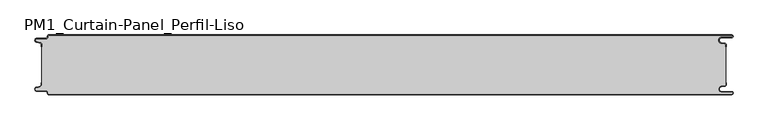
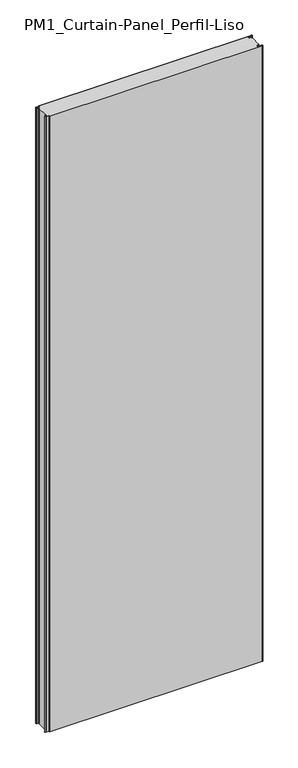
"""IFC4 building model written with IfcOpenShell, lengths in millimetres: plate geometry, PM1_Curtain-Panel_Perfil-Liso : ACH_PM1_Panel-Acústico-Sectorización_100M."""

import ifcopenshell
import ifcopenshell.guid

model = None  # the IFC model being written
_history = None  # IfcOwnerHistory: only IFC2X3 demands one
_inside = {}  # id of a spatial element -> (the spatial element, [elements in it])
_under = {}  # id of a project, library or spatial element -> (it, [spatial elements below it])
_declared = {}  # id of a project -> (the project, [libraries it declares])
_typed = {}  # id of a type object -> (the type object, [elements of that type])
_made_of = {}  # id of a material, layer set ... -> (it, [elements and type objects made of it])


def new_model(schema):
    """Start an empty IFC model of exactly this schema.

    Asked for "IFC4X3", IfcOpenShell would pick the latest addendum, in which some entities
    have other attributes; the version numbers below select the first issue.
    IFC2X3 requires an IfcOwnerHistory on every rooted entity: one is made here for all.
    """
    global model, _history
    if schema == "IFC4X3":
        model = ifcopenshell.file(schema_version=(4, 3, 0, 0))
    else:
        model = ifcopenshell.file(schema=schema)
    _inside.clear()
    _under.clear()
    _declared.clear()
    _typed.clear()
    _made_of.clear()
    _history = None
    if model.schema == "IFC2X3":
        org = make("IfcOrganization", Name="unknown")
        user = make(
            "IfcPersonAndOrganization",
            ThePerson=make("IfcPerson", FamilyName="unknown"),
            TheOrganization=org,
        )
        app = make(
            "IfcApplication",
            ApplicationDeveloper=org,
            Version="unknown",
            ApplicationFullName="unknown",
            ApplicationIdentifier="unknown",
        )
        _history = make(
            "IfcOwnerHistory",
            OwningUser=user,
            OwningApplication=app,
            ChangeAction="ADDED",
            CreationDate=0,
        )
    return model


def make(cls, **values):
    """One entity of the class cls with the attributes given. An attribute that is None is left unset."""
    return model.create_entity(
        cls, **{name: value for name, value in values.items() if value is not None}
    )


def rooted(cls, **values):
    """An entity with a GlobalId (a new one), such as an element, a storey or a relation."""
    return make(cls, GlobalId=ifcopenshell.guid.new(), OwnerHistory=_history, **values)


def si_unit(unit_type, name, prefix=None):
    """IfcSIUnit, for example si_unit("LENGTHUNIT", "METRE", prefix="MILLI")."""
    return make("IfcSIUnit", UnitType=unit_type, Prefix=prefix, Name=name)


def assignment(units):
    """IfcUnitAssignment: the units of a project."""
    return None if units is None else make("IfcUnitAssignment", Units=units)


def point(xyz):
    """IfcCartesianPoint."""
    return None if xyz is None else make("IfcCartesianPoint", Coordinates=xyz)


def direction(xyz):
    """IfcDirection."""
    return None if xyz is None else make("IfcDirection", DirectionRatios=xyz)


def frame(location, z_axis=None, x_axis=None):
    """IfcAxis2Placement3D, a coordinate frame: its origin and axes. An axis left out is left unset."""
    return make(
        "IfcAxis2Placement3D",
        Location=point(location),
        Axis=direction(z_axis),
        RefDirection=direction(x_axis),
    )


def frame_2d(location, x_axis=None):
    """IfcAxis2Placement2D, a coordinate frame in the plane: its origin and x axis."""
    return make(
        "IfcAxis2Placement2D", Location=point(location), RefDirection=direction(x_axis)
    )


def origin():
    """The frame at (0, 0, 0) with its axes left unset."""
    return frame((0.0, 0.0, 0.0))


def origin_with_axes():
    """The frame at (0, 0, 0) with the z axis (0, 0, 1) and the x axis (1, 0, 0) written out."""
    return frame((0.0, 0.0, 0.0), z_axis=(0.0, 0.0, 1.0), x_axis=(1.0, 0.0, 0.0))


def place(relative_to, where):
    """IfcLocalPlacement: puts the frame where relative to a parent placement (None: the world)."""
    return make(
        "IfcLocalPlacement", PlacementRelTo=relative_to, RelativePlacement=where
    )


def context(
    kind, dimensions, precision=None, world=None, true_north=None, identifier=None
):
    """IfcGeometricRepresentationContext, for example the 3D "Model" context."""
    return make(
        "IfcGeometricRepresentationContext",
        ContextIdentifier=identifier,
        ContextType=kind,
        CoordinateSpaceDimension=dimensions,
        Precision=precision,
        WorldCoordinateSystem=world,
        TrueNorth=true_north,
    )


def project(units=None, contexts=None):
    """IfcProject with its units and contexts."""
    return rooted(
        "IfcProject",
        Name="project",
        RepresentationContexts=contexts,
        UnitsInContext=assignment(units),
    )


def spatial(cls, under=None, at=None, **own):
    """A site, building, storey or space (cls), placed at a placement, below another one or the project."""
    s = rooted(cls, ObjectPlacement=at, **own)
    if under is not None:
        _under.setdefault(under.id(), (under, []))[1].append(s)
    return s


def polyline(points):
    """IfcPolyline through the points."""
    return make("IfcPolyline", Points=[point(p) for p in points])


def circle_curve(where, radius):
    """IfcCircle in the frame where."""
    return make("IfcCircle", Position=where, Radius=radius)


def trimmed(basis, trim1, trim2, sense, master):
    """IfcTrimmedCurve: the piece of a basis curve between two trims."""
    return make(
        "IfcTrimmedCurve",
        BasisCurve=basis,
        Trim1=trim1,
        Trim2=trim2,
        SenseAgreement=sense,
        MasterRepresentation=master,
    )


def segment(curve, same_sense, transition):
    """IfcCompositeCurveSegment."""
    return make(
        "IfcCompositeCurveSegment",
        Transition=transition,
        SameSense=same_sense,
        ParentCurve=curve,
    )


def composite_curve(segments, self_intersect=None):
    """IfcCompositeCurve: segments joined end to end."""
    return make("IfcCompositeCurve", Segments=segments, SelfIntersect=self_intersect)


def outline(outer, holes=None, kind="AREA"):
    """IfcArbitraryClosedProfileDef: a profile drawn as a closed curve; with holes, ...WithVoids."""
    if holes is None:
        return make("IfcArbitraryClosedProfileDef", ProfileType=kind, OuterCurve=outer)
    return make(
        "IfcArbitraryProfileDefWithVoids",
        ProfileType=kind,
        OuterCurve=outer,
        InnerCurves=holes,
    )


def extrude(swept, where, along, depth):
    """IfcExtrudedAreaSolid: the profile swept, set in the frame where, extruded along a direction by depth."""
    return make(
        "IfcExtrudedAreaSolid",
        SweptArea=swept,
        Position=where,
        ExtrudedDirection=direction(along),
        Depth=depth,
    )


def shape(context_of_items, identifier, shape_type, items):
    """IfcShapeRepresentation: the items that make up one representation, for example the "Body"."""
    return make(
        "IfcShapeRepresentation",
        ContextOfItems=context_of_items,
        RepresentationIdentifier=identifier,
        RepresentationType=shape_type,
        Items=items,
    )


def source(mapping_origin, context_of_items, identifier, shape_type, items):
    """IfcRepresentationMap: a shape defined once, which mapped items show again and again."""
    return make(
        "IfcRepresentationMap",
        MappingOrigin=mapping_origin,
        MappedRepresentation=shape(context_of_items, identifier, shape_type, items),
    )


def transform(
    local_origin,
    x_axis=None,
    y_axis=None,
    z_axis=None,
    scale=None,
    scale2=None,
    scale3=None,
    uniform=True,
):
    """IfcCartesianTransformationOperator3D, or its non-uniform kind. x_axis, y_axis, z_axis: its Axis1, 2, 3."""
    if uniform:
        return make(
            "IfcCartesianTransformationOperator3D",
            Axis1=direction(x_axis),
            Axis2=direction(y_axis),
            LocalOrigin=point(local_origin),
            Scale=scale,
            Axis3=direction(z_axis),
        )
    return make(
        "IfcCartesianTransformationOperator3DnonUniform",
        Axis1=direction(x_axis),
        Axis2=direction(y_axis),
        LocalOrigin=point(local_origin),
        Scale=scale,
        Axis3=direction(z_axis),
        Scale2=scale2,
        Scale3=scale3,
    )


def mapped(mapping_source, mapping_target):
    """IfcMappedItem: shows the shape of a source again, moved by a transform."""
    return make(
        "IfcMappedItem", MappingSource=mapping_source, MappingTarget=mapping_target
    )


def made_of(thing, what):
    """Note that an element or type object is made of a material, layer set ...; save() writes the relation."""
    if what is not None:
        _made_of.setdefault(what.id(), (what, []))[1].append(thing)
    return thing


def element(
    cls,
    number,
    at=None,
    inside=None,
    cuts=None,
    type_object=None,
    material=None,
    context=None,
    identifier="Body",
    shape_type=None,
    held_by="IfcProductDefinitionShape",
    body=None,
    shapes=None,
    **own,
):
    """One element of the class cls, such as IfcWall. Its Tag is "e" and its number.

    at: its placement. inside: the storey or other place that contains it. cuts: it is an
    opening in that element (IfcRelVoidsElement). A single representation is given by context,
    identifier, shape_type and body (its items); several are given by shapes. held_by: the class
    of the entity that holds the representations. save() writes the other relations.
    """
    e = rooted(cls, Tag="e%d" % number, ObjectPlacement=at, **own)
    if body is not None:
        shapes = [shape(context, identifier, shape_type, body)]
    if shapes is not None:
        e.Representation = make(held_by, Representations=shapes)
    if inside is not None:
        _inside.setdefault(inside.id(), (inside, []))[1].append(e)
    if cuts is not None:
        rooted(
            "IfcRelVoidsElement", RelatingBuildingElement=cuts, RelatedOpeningElement=e
        )
    if type_object is not None:
        _typed.setdefault(type_object.id(), (type_object, []))[1].append(e)
    return made_of(e, material)


def aggregate(whole, parts):
    """IfcRelAggregates: a whole, such as a stair, and the parts it consists of."""
    return rooted("IfcRelAggregates", RelatingObject=whole, RelatedObjects=parts)


def save(model, path):
    """Write the relations noted so far, then the file.

    IfcRelAggregates (storeys below a building ...), IfcRelContainedInSpatialStructure (elements
    in a storey), IfcRelDefinesByType, IfcRelAssociatesMaterial and IfcRelDeclares: one each for
    every whole, place, type object, material and project.
    """
    for whole, parts in _under.values():
        aggregate(whole, parts)
    for where, things in _inside.values():
        rooted(
            "IfcRelContainedInSpatialStructure",
            RelatedElements=things,
            RelatingStructure=where,
        )
    for kind, things in _typed.values():
        rooted("IfcRelDefinesByType", RelatedObjects=things, RelatingType=kind)
    for what, things in _made_of.values():
        rooted("IfcRelAssociatesMaterial", RelatedObjects=things, RelatingMaterial=what)
    for by, libraries in _declared.values():
        rooted("IfcRelDeclares", RelatingContext=by, RelatedDefinitions=libraries)
    model.write(path)


def plane_surface(at):
    """IfcPlane: the flat surface through the origin of the frame at, square to its z axis."""
    return make("IfcPlane", Position=at)


def cylinder_surface(at, radius):
    """IfcCylindricalSurface: all points at the distance radius from the z axis of the frame at."""
    return make("IfcCylindricalSurface", Position=at, Radius=radius)


def revolved_surface(curve, axis_point, axis_direction):
    """IfcSurfaceOfRevolution: the curve turned about the line through axis_point along axis_direction."""
    return make(
        "IfcSurfaceOfRevolution",
        SweptCurve=make("IfcArbitraryOpenProfileDef", ProfileType="CURVE", Curve=curve),
        AxisPosition=make("IfcAxis1Placement", Location=point(axis_point), Axis=direction(axis_direction)),
    )


def advanced_brep(points, edges, surfaces, faces):
    """IfcAdvancedBrep: a solid bounded by faces that lie on surfaces and meet in shared edges.

    An edge is (start, end): straight between two places in points (the first is 0);
    or (start, end, curve); or (start, end, curve, False) where it runs against its curve.
    A face is (place in surfaces, loops), or (place, loops, False) where it looks against
    its surface's normal. A loop lists edges by number (the first is 1), with a minus sign
    where the edge is run from its end to its start. The first loop is the outer one.
    """
    corners = [point(p) for p in points]
    vertices = [make("IfcVertexPoint", VertexGeometry=c) for c in corners]
    made = []
    for start, end, *more in edges:
        made.append(
            make(
                "IfcEdgeCurve",
                EdgeStart=vertices[start],
                EdgeEnd=vertices[end],
                EdgeGeometry=more[0] if more else make("IfcPolyline", Points=[corners[start], corners[end]]),
                SameSense=more[1] if len(more) > 1 else True,
            )
        )
    hull = []
    for where, loops, *sense in faces:
        bounds = []
        for j, loop in enumerate(loops):
            ring = [make("IfcOrientedEdge", EdgeElement=made[abs(k) - 1], Orientation=k > 0) for k in loop]
            bounds.append(
                make(
                    "IfcFaceOuterBound" if j == 0 else "IfcFaceBound",
                    Bound=make("IfcEdgeLoop", EdgeList=ring),
                    Orientation=True,
                )
            )
        hull.append(make("IfcAdvancedFace", Bounds=bounds, FaceSurface=surfaces[where], SameSense=sense[0] if sense else True))
    return make("IfcAdvancedBrep", Outer=make("IfcClosedShell", CfsFaces=hull))


def pm1_curtain_panel_perfil_liso_9f0cf21e(model_context):
    return source(origin(), model_context, "Body", "SolidModel", [
        advanced_brep(
        [(583.1, 0.0, 3500.0), (-562.4, 0.0, 3500.0), (-564.4, -2.0, 3500.0), (-564.4, -3.4, 3500.0), (-566.4, -5.4, 3500.0), (-581.9, -5.4, 3500.0), (-582.7098239, -12.5077322, 3500.0), (-576.5500979, -13.929817, 3500.0), (-575.0, -15.878557, 3500.0), (-575.0, -20.0, 3500.0), (-574.2, -20.0, 3500.0), (-574.2, -15.878557, 3500.0), (-576.370137, -13.1503208, 3500.0), (-582.529863, -11.728236, 3500.0), (-581.9, -6.2, 3500.0), (-566.4, -6.2, 3500.0), (-563.6, -3.4, 3500.0), (-563.6, -2.0, 3500.0), (-562.4, -0.8, 3500.0), (583.1, -0.8, 3500.0), (583.1, -4.2, 3500.0), (566.1, -4.2, 3500.0), (565.266489, -13.7270773, 3500.0), (571.7125666, -14.8636942, 3500.0), (573.2, -16.636348, 3500.0), (573.2, -20.0, 3500.0), (574.0, -20.0, 3500.0), (574.0, -16.636348, 3500.0), (571.8514851, -14.0758478, 3500.0), (565.4054075, -12.9392309, 3500.0), (566.1, -5.0, 3500.0), (583.1, -5.0, 3500.0), (585.6, -2.5, 3500.0), (-562.4, 0.0, 0.0), (583.1, 0.0, 0.0), (585.6, -2.5, 0.0), (583.1, -5.0, 0.0), (566.1, -5.0, 0.0), (565.4054075, -12.939231, 0.0), (571.8514851, -14.075848, 0.0), (574.0, -16.636348, 0.0), (574.0, -20.0, 0.0), (573.2, -20.0, 0.0), (573.2, -16.636348, 0.0), (571.7125666, -14.863694, 0.0), (565.266489, -13.7270771, 0.0), (566.1, -4.2, 0.0), (583.1, -4.2, 0.0), (583.1, -0.8, 0.0), (-562.4, -0.8, 0.0), (-563.6, -2.0, 0.0), (-563.6, -3.4, 0.0), (-566.4, -6.2, 0.0), (-581.9, -6.2, 0.0), (-582.529863, -11.7282362, 0.0), (-576.370137, -13.150321, 0.0), (-574.2, -15.878557, 0.0), (-574.2, -20.0, 0.0), (-575.0, -20.0, 0.0), (-575.0, -15.878557, 0.0), (-576.5500978, -13.9298169, 0.0), (-582.7098239, -12.507732, 0.0), (-581.9, -5.4, 0.0), (-566.4, -5.4, 0.0), (-564.4, -3.4, 0.0), (-564.4, -2.0, 0.0)],
        [
            (0, 1),
            (1, 2, circle_curve(frame((-562.4, -2.0, 3500.0), z_axis=(0.0, 0.0, 1.0), x_axis=(1.0, 0.0, 0.0)), 2.0)),
            (2, 3),
            (3, 4, circle_curve(frame((-566.4, -3.4, 3500.0), z_axis=(0.0, 0.0, -1.0), x_axis=(1.0, 0.0, 0.0)), 2.0)),
            (4, 5),
            (5, 6, circle_curve(frame((-581.9, -9.0, 3500.0), z_axis=(0.0, 0.0, 1.0), x_axis=(1.0, 0.0, 0.0)), 3.6)),
            (6, 7),
            (7, 8, circle_curve(frame((-577.0, -15.878557, 3500.0), z_axis=(0.0, 0.0, -1.0), x_axis=(1.0, 0.0, 0.0)), 2.0)),
            (8, 9),
            (9, 10),
            (10, 11),
            (11, 12, circle_curve(frame((-577.0, -15.878557, 3500.0), z_axis=(0.0, 0.0, 1.0), x_axis=(1.0, 0.0, 0.0)), 2.8)),
            (12, 13),
            (13, 14, circle_curve(frame((-581.9, -9.0, 3500.0), z_axis=(0.0, 0.0, -1.0), x_axis=(1.0, 0.0, 0.0)), 2.8)),
            (14, 15),
            (15, 16, circle_curve(frame((-566.4, -3.4, 3500.0), z_axis=(0.0, 0.0, 1.0), x_axis=(1.0, 0.0, 0.0)), 2.8)),
            (16, 17),
            (17, 18, circle_curve(frame((-562.4, -2.0, 3500.0), z_axis=(0.0, 0.0, -1.0), x_axis=(1.0, 0.0, 0.0)), 1.2)),
            (18, 19),
            (19, 20, circle_curve(frame((583.1, -2.5, 3500.0), z_axis=(0.0, 0.0, -1.0), x_axis=(1.0, 0.0, 0.0)), 1.7)),
            (20, 21),
            (21, 22, circle_curve(frame((566.1, -9.0, 3500.0), z_axis=(0.0, 0.0, 1.0), x_axis=(1.0, 0.0, 0.0)), 4.8)),
            (22, 23),
            (23, 24, circle_curve(frame((571.4, -16.636348, 3500.0), z_axis=(0.0, 0.0, -1.0), x_axis=(1.0, 0.0, 0.0)), 1.8)),
            (24, 25),
            (25, 26),
            (26, 27),
            (27, 28, circle_curve(frame((571.4, -16.636348, 3500.0), z_axis=(0.0, 0.0, 1.0), x_axis=(1.0, 0.0, 0.0)), 2.6)),
            (28, 29),
            (29, 30, circle_curve(frame((566.1, -9.0, 3500.0), z_axis=(0.0, 0.0, -1.0), x_axis=(1.0, 0.0, 0.0)), 4.0)),
            (30, 31),
            (31, 32, circle_curve(frame((583.1, -2.5, 3500.0), z_axis=(0.0, 0.0, 1.0), x_axis=(1.0, 0.0, 0.0)), 2.5)),
            (32, 0, circle_curve(frame((583.1, -2.5, 3500.0), z_axis=(0.0, 0.0, 1.0), x_axis=(1.0, 0.0, 0.0)), 2.5)),
            (33, 34),
            (34, 35, circle_curve(frame((583.1, -2.5, 0.0), z_axis=(0.0, 0.0, -1.0), x_axis=(1.0, 0.0, 0.0)), 2.5)),
            (35, 36, circle_curve(frame((583.1, -2.5, 0.0), z_axis=(0.0, 0.0, -1.0), x_axis=(1.0, 0.0, 0.0)), 2.5)),
            (36, 37),
            (37, 38, circle_curve(frame((566.1, -9.0, 0.0), z_axis=(0.0, 0.0, 1.0), x_axis=(1.0, 0.0, 0.0)), 4.0)),
            (38, 39),
            (39, 40, circle_curve(frame((571.4, -16.636348, 0.0), z_axis=(0.0, 0.0, -1.0), x_axis=(1.0, 0.0, 0.0)), 2.6)),
            (40, 41),
            (41, 42),
            (42, 43),
            (43, 44, circle_curve(frame((571.4, -16.636348, 0.0), z_axis=(0.0, 0.0, 1.0), x_axis=(1.0, 0.0, 0.0)), 1.8)),
            (44, 45),
            (45, 46, circle_curve(frame((566.1, -9.0, 0.0), z_axis=(0.0, 0.0, -1.0), x_axis=(1.0, 0.0, 0.0)), 4.8)),
            (46, 47),
            (47, 48, circle_curve(frame((583.1, -2.5, 0.0), z_axis=(0.0, 0.0, 1.0), x_axis=(1.0, 0.0, 0.0)), 1.7)),
            (48, 49),
            (49, 50, circle_curve(frame((-562.4, -2.0, 0.0), z_axis=(0.0, 0.0, 1.0), x_axis=(1.0, 0.0, 0.0)), 1.2)),
            (50, 51),
            (51, 52, circle_curve(frame((-566.4, -3.4, 0.0), z_axis=(0.0, 0.0, -1.0), x_axis=(1.0, 0.0, 0.0)), 2.8)),
            (52, 53),
            (53, 54, circle_curve(frame((-581.9, -9.0, 0.0), z_axis=(0.0, 0.0, 1.0), x_axis=(1.0, 0.0, 0.0)), 2.8)),
            (54, 55),
            (55, 56, circle_curve(frame((-577.0, -15.878557, 0.0), z_axis=(0.0, 0.0, -1.0), x_axis=(1.0, 0.0, 0.0)), 2.8)),
            (56, 57),
            (57, 58),
            (58, 59),
            (59, 60, circle_curve(frame((-577.0, -15.878557, 0.0), z_axis=(0.0, 0.0, 1.0), x_axis=(1.0, 0.0, 0.0)), 2.0)),
            (60, 61),
            (61, 62, circle_curve(frame((-581.9, -9.0, 0.0), z_axis=(0.0, 0.0, -1.0), x_axis=(1.0, 0.0, 0.0)), 3.6)),
            (62, 63),
            (63, 64, circle_curve(frame((-566.4, -3.4, 0.0), z_axis=(0.0, 0.0, 1.0), x_axis=(1.0, 0.0, 0.0)), 2.0)),
            (64, 65),
            (65, 33, circle_curve(frame((-562.4, -2.0, 0.0), z_axis=(0.0, 0.0, -1.0), x_axis=(1.0, 0.0, 0.0)), 2.0)),
            (1, 33),
            (65, 2),
            (64, 3),
            (63, 4),
            (62, 5),
            (61, 6),
            (60, 7),
            (59, 8),
            (58, 9),
            (57, 10),
            (56, 11),
            (55, 12),
            (54, 13),
            (53, 14),
            (52, 15),
            (51, 16),
            (50, 17),
            (49, 18),
            (48, 19),
            (47, 20),
            (46, 21),
            (45, 22),
            (44, 23),
            (43, 24),
            (42, 25),
            (41, 26),
            (40, 27),
            (39, 28),
            (38, 29),
            (37, 30),
            (36, 31),
            (34, 0),
        ],
        [
            plane_surface(frame((-575.0, 0.0, 3500.0), z_axis=(0.0, 0.0, 1.0), x_axis=(0.0, 1.0, 0.0))),
            plane_surface(frame((-575.0, 0.0, 0.0), z_axis=(0.0, 0.0, -1.0), x_axis=(0.0, 1.0, 0.0))),
            cylinder_surface(frame((-562.4, -2.0, 3500.0), z_axis=(0.0, 0.0, 1.0), x_axis=(1.0, 0.0, 0.0)), 2.0),
            plane_surface(frame((-564.4, -2.0, 3500.0), z_axis=(-1.0, 0.0, 0.0), x_axis=(0.0, 0.0, -1.0))),
            revolved_surface(polyline([(-564.4, -3.4, 0.0), (-564.4, -3.4, 3500.0)]), (-566.4, -3.4, 3500.0), (0.0, 0.0, -1.0)),
            plane_surface(frame((-566.4, -5.4, 3500.0), z_axis=(0.0, 1.0, 0.0), x_axis=(0.0, 0.0, -1.0))),
            cylinder_surface(frame((-581.9, -9.0, 3500.0), z_axis=(0.0, 0.0, 1.0), x_axis=(1.0, 0.0, 0.0)), 3.6),
            plane_surface(frame((-582.7098239, -12.507732, 3500.0), z_axis=(-0.2249510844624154, -0.9743700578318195, 0.0), x_axis=(0.0, 0.0, -1.0))),
            revolved_surface(polyline([(-575.0, -15.878557, 0.0), (-575.0, -15.878557, 3500.0)]), (-577.0, -15.878557, 3500.0), (0.0, 0.0, -1.0)),
            plane_surface(frame((-575.0, -15.878557, 3500.0), z_axis=(-1.0, 0.0, 0.0), x_axis=(0.0, 0.0, -1.0))),
            plane_surface(frame((-575.0, -20.0, 3500.0), z_axis=(0.0, -1.0, 0.0), x_axis=(0.0, 0.0, -1.0))),
            plane_surface(frame((-574.2, -20.0, 3500.0), z_axis=(1.0, 0.0, 0.0), x_axis=(0.0, 0.0, -1.0))),
            cylinder_surface(frame((-577.0, -15.878557, 3500.0), z_axis=(0.0, 0.0, 1.0), x_axis=(1.0, 0.0, 0.0)), 2.8),
            plane_surface(frame((-576.370137, -13.150321, 3500.0), z_axis=(0.22495108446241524, 0.9743700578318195, 0.0), x_axis=(0.0, 0.0, -1.0))),
            revolved_surface(polyline([(-579.1, -9.0, 0.0), (-579.1, -9.0, 3500.0)]), (-581.9, -9.0, 3500.0), (0.0, 0.0, -1.0)),
            plane_surface(frame((-581.9, -6.2, 3500.0), z_axis=(0.0, -1.0, 0.0), x_axis=(0.0, 0.0, -1.0))),
            cylinder_surface(frame((-566.4, -3.4, 3500.0), z_axis=(0.0, 0.0, 1.0), x_axis=(1.0, 0.0, 0.0)), 2.8),
            plane_surface(frame((-563.6, -3.4, 3500.0), z_axis=(1.0, 0.0, 0.0), x_axis=(0.0, 0.0, -1.0))),
            revolved_surface(polyline([(-561.1999999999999, -2.0, 0.0), (-561.1999999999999, -2.0, 3500.0)]), (-562.4, -2.0, 3500.0), (0.0, 0.0, -1.0)),
            plane_surface(frame((560.890897, -0.8, 3500.0), z_axis=(0.0, -1.0, 0.0), x_axis=(0.0, 0.0, -1.0))),
            revolved_surface(polyline([(584.8000000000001, -2.5, 0.0), (584.8000000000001, -2.5, 3500.0)]), (583.1, -2.5, 3500.0), (0.0, 0.0, -1.0)),
            plane_surface(frame((583.1, -4.2, 3500.0), z_axis=(0.0, 1.0, 0.0), x_axis=(0.0, 0.0, -1.0))),
            cylinder_surface(frame((566.1, -9.0, 3500.0), z_axis=(0.0, 0.0, 1.0), x_axis=(1.0, 0.0, 0.0)), 4.8),
            plane_surface(frame((565.266489, -13.7270771, 3500.0), z_axis=(-0.1736481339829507, -0.9848077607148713, 0.0), x_axis=(0.0, 0.0, -1.0))),
            revolved_surface(polyline([(573.1999999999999, -16.636348, 0.0), (573.1999999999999, -16.636348, 3500.0)]), (571.4, -16.636348, 3500.0), (0.0, 0.0, -1.0)),
            plane_surface(frame((573.2, -16.636348, 3500.0), z_axis=(-1.0, 0.0, 0.0), x_axis=(0.0, 0.0, -1.0))),
            plane_surface(frame((573.2, -20.0, 3500.0), z_axis=(0.0, -1.0, 0.0), x_axis=(0.0, 0.0, -1.0))),
            plane_surface(frame((574.0, -20.0, 3500.0), z_axis=(1.0, 0.0, 0.0), x_axis=(0.0, 0.0, -1.0))),
            cylinder_surface(frame((571.4, -16.636348, 3500.0), z_axis=(0.0, 0.0, 1.0), x_axis=(1.0, 0.0, 0.0)), 2.6),
            plane_surface(frame((571.8514851, -14.075848, 3500.0), z_axis=(0.17364813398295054, 0.9848077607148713, 0.0), x_axis=(0.0, 0.0, -1.0))),
            revolved_surface(polyline([(570.1, -9.0, 0.0), (570.1, -9.0, 3500.0)]), (566.1, -9.0, 3500.0), (0.0, 0.0, -1.0)),
            plane_surface(frame((566.1, -5.0, 3500.0), z_axis=(0.0, -1.0, 0.0), x_axis=(0.0, 0.0, -1.0))),
            cylinder_surface(frame((583.1, -2.5, 3500.0), z_axis=(0.0, 0.0, 1.0), x_axis=(1.0, 0.0, 0.0)), 2.5),
            plane_surface(frame((510.5961529, 0.0, 3500.0), z_axis=(0.0, 1.0, 0.0), x_axis=(0.0, 0.0, -1.0))),
        ],
        [
            (0, [[1, 2, 3, 4, 5, 6, 7, 8, 9, 10, 11, 12, 13, 14, 15, 16, 17, 18, 19, 20, 21, 22, 23, 24, 25, 26, 27, 28, 29, 30, 31, 32, 33]]),
            (1, [[34, 35, 36, 37, 38, 39, 40, 41, 42, 43, 44, 45, 46, 47, 48, 49, 50, 51, 52, 53, 54, 55, 56, 57, 58, 59, 60, 61, 62, 63, 64, 65, 66]]),
            (2, [[-2, 67, -66, 68]]),
            (3, [[-3, -68, -65, 69]]),
            (4, [[-4, -69, -64, 70]]),
            (5, [[-5, -70, -63, 71]]),
            (6, [[-6, -71, -62, 72]]),
            (7, [[-7, -72, -61, 73]]),
            (8, [[-8, -73, -60, 74]]),
            (9, [[-9, -74, -59, 75]]),
            (10, [[-10, -75, -58, 76]]),
            (11, [[-11, -76, -57, 77]]),
            (12, [[-12, -77, -56, 78]]),
            (13, [[-13, -78, -55, 79]]),
            (14, [[-14, -79, -54, 80]]),
            (15, [[-15, -80, -53, 81]]),
            (16, [[-16, -81, -52, 82]]),
            (17, [[-17, -82, -51, 83]]),
            (18, [[-18, -83, -50, 84]]),
            (19, [[-19, -84, -49, 85]]),
            (20, [[-20, -85, -48, 86]]),
            (21, [[-21, -86, -47, 87]]),
            (22, [[-22, -87, -46, 88]]),
            (23, [[-23, -88, -45, 89]]),
            (24, [[-24, -89, -44, 90]]),
            (25, [[-25, -90, -43, 91]]),
            (26, [[-26, -91, -42, 92]]),
            (27, [[-27, -92, -41, 93]]),
            (28, [[-28, -93, -40, 94]]),
            (29, [[-29, -94, -39, 95]]),
            (30, [[-30, -95, -38, 96]]),
            (31, [[-31, -96, -37, 97]]),
            (32, [[-97, -36, -35, 98, -33, -32]]),
            (33, [[-1, -98, -34, -67]]),
        ],
    ),
        extrude(outline(composite_curve([segment(polyline([(-574.2, -84.1214426), (-574.2, -15.8785573)]), True, "CONTINUOUS"), segment(trimmed(circle_curve(frame_2d((-577.0, -15.8785573)), 2.8), [point((-574.2, -15.8785573))], [point((-576.370137, -13.1503212))], True, "CARTESIAN"), True, "CONTINUOUS"), segment(polyline([(-576.370137, -13.1503212), (-582.5298631, -11.7282362)]), True, "CONTINUOUS"), segment(trimmed(circle_curve(frame_2d((-581.9, -9.0)), 2.8), [point((-582.5298631, -11.7282362))], [point((-581.9, -6.2))], False, "CARTESIAN"), True, "CONTINUOUS"), segment(polyline([(-581.9, -6.2), (-566.4000001, -6.2)]), True, "CONTINUOUS"), segment(trimmed(circle_curve(frame_2d((-566.4000001, -3.4)), 2.8), [point((-566.4000001, -6.2))], [point((-563.6000001, -3.4))], True, "CARTESIAN"), True, "CONTINUOUS"), segment(polyline([(-563.6000001, -3.4), (-563.6000001, -2.0)]), True, "CONTINUOUS"), segment(trimmed(circle_curve(frame_2d((-562.4000001, -2.0)), 1.2), [point((-563.6000001, -2.0))], [point((-562.4000001, -0.8))], False, "CARTESIAN"), True, "CONTINUOUS"), segment(polyline([(-562.4000001, -0.8), (583.1, -0.8)]), True, "CONTINUOUS"), segment(trimmed(circle_curve(frame_2d((583.1, -2.5)), 1.7), [point((583.1, -0.8))], [point((583.1, -4.2))], False, "CARTESIAN"), True, "CONTINUOUS"), segment(polyline([(583.1, -4.2), (566.1, -4.2)]), True, "CONTINUOUS"), segment(trimmed(circle_curve(frame_2d((566.1, -9.0)), 4.8), [point((566.1, -4.2))], [point((565.2664883, -13.7270771))], True, "CARTESIAN"), True, "CONTINUOUS"), segment(polyline([(565.2664883, -13.7270771), (571.7125668, -14.8636953)]), True, "CONTINUOUS"), segment(trimmed(circle_curve(frame_2d((571.4, -16.6363492)), 1.8), [point((571.7125668, -14.8636953))], [point((573.2, -16.6363492))], False, "CARTESIAN"), True, "CONTINUOUS"), segment(polyline([(573.2, -16.6363492), (573.2, -83.3636508)]), True, "CONTINUOUS"), segment(trimmed(circle_curve(frame_2d((571.4, -83.3636508)), 1.8), [point((573.2, -83.3636508))], [point((571.7125668, -85.1363047))], False, "CARTESIAN"), True, "CONTINUOUS"), segment(polyline([(571.7125668, -85.1363047), (565.2664883, -86.2729229)]), True, "CONTINUOUS"), segment(trimmed(circle_curve(frame_2d((566.1, -91.0)), 4.8), [point((565.2664883, -86.2729229))], [point((566.1, -95.8))], True, "CARTESIAN"), True, "CONTINUOUS"), segment(polyline([(566.1, -95.8), (583.1, -95.8)]), True, "CONTINUOUS"), segment(trimmed(circle_curve(frame_2d((583.1, -97.5)), 1.7), [point((583.1, -95.8))], [point((583.1, -99.2))], False, "CARTESIAN"), True, "CONTINUOUS"), segment(polyline([(583.1, -99.2), (-562.4000001, -99.2)]), True, "CONTINUOUS"), segment(trimmed(circle_curve(frame_2d((-562.4000001, -98.0)), 1.2), [point((-562.4000001, -99.2))], [point((-563.6000001, -98.0))], False, "CARTESIAN"), True, "CONTINUOUS"), segment(polyline([(-563.6000001, -98.0), (-563.6000001, -96.6)]), True, "CONTINUOUS"), segment(trimmed(circle_curve(frame_2d((-566.4000001, -96.6)), 2.8), [point((-563.6000001, -96.6))], [point((-566.4000001, -93.8))], True, "CARTESIAN"), True, "CONTINUOUS"), segment(polyline([(-566.4000001, -93.8), (-581.9, -93.8)]), True, "CONTINUOUS"), segment(trimmed(circle_curve(frame_2d((-581.9, -91.0)), 2.8), [point((-581.9, -93.8))], [point((-582.5298631, -88.2717638))], False, "CARTESIAN"), True, "CONTINUOUS"), segment(polyline([(-582.5298631, -88.2717638), (-576.370137, -86.8496788)]), True, "CONTINUOUS"), segment(trimmed(circle_curve(frame_2d((-577.0, -84.1214426)), 2.8), [point((-576.370137, -86.8496788))], [point((-574.2, -84.1214426))], True, "CARTESIAN"), True, "CONTINUOUS")], self_intersect=False)), origin_with_axes(), (0.0, 0.0, 1.0), 3500.0),
        advanced_brep(
        [(-562.4, -100.0, 3500.0), (583.1, -100.0, 3500.0), (585.6, -97.5, 3500.0), (583.1, -95.0, 3500.0), (566.1, -95.0, 3500.0), (565.4054075, -87.060769, 3500.0), (571.8514851, -85.924152, 3500.0), (574.0, -83.363652, 3500.0), (574.0, -80.0, 3500.0), (573.2, -80.0, 3500.0), (573.2, -83.363652, 3500.0), (571.7125666, -85.136306, 3500.0), (565.266489, -86.2729229, 3500.0), (566.1, -95.8, 3500.0), (583.1, -95.8, 3500.0), (583.1, -99.2, 3500.0), (-562.4, -99.2, 3500.0), (-563.6, -98.0, 3500.0), (-563.6, -96.6, 3500.0), (-566.4, -93.8, 3500.0), (-581.9, -93.8, 3500.0), (-582.529863, -88.2717638, 3500.0), (-576.370137, -86.849679, 3500.0), (-574.2, -84.121443, 3500.0), (-574.2, -80.0, 3500.0), (-575.0, -80.0, 3500.0), (-575.0, -84.121443, 3500.0), (-576.5500978, -86.0701831, 3500.0), (-582.7098239, -87.492268, 3500.0), (-581.9, -94.6, 3500.0), (-566.4, -94.6, 3500.0), (-564.4, -96.6, 3500.0), (-564.4, -98.0, 3500.0), (583.1, -100.0, 0.0), (-562.4, -100.0, 0.0), (-564.4, -98.0, 0.0), (-564.4, -96.6, 0.0), (-566.4, -94.6, 0.0), (-581.9, -94.6, 0.0), (-582.7098239, -87.4922678, 0.0), (-576.5500979, -86.070183, 0.0), (-575.0, -84.121443, 0.0), (-575.0, -80.0, 0.0), (-574.2, -80.0, 0.0), (-574.2, -84.121443, 0.0), (-576.370137, -86.8496792, 0.0), (-582.529863, -88.271764, 0.0), (-581.9, -93.8, 0.0), (-566.4, -93.8, 0.0), (-563.6, -96.6, 0.0), (-563.6, -98.0, 0.0), (-562.4, -99.2, 0.0), (583.1, -99.2, 0.0), (583.1, -95.8, 0.0), (566.1, -95.8, 0.0), (565.266489, -86.2729227, 0.0), (571.7125666, -85.1363058, 0.0), (573.2, -83.363652, 0.0), (573.2, -80.0, 0.0), (574.0, -80.0, 0.0), (574.0, -83.363652, 0.0), (571.8514851, -85.9241522, 0.0), (565.4054075, -87.0607691, 0.0), (566.1, -95.0, 0.0), (583.1, -95.0, 0.0), (585.6, -97.5, 0.0)],
        [
            (0, 1),
            (1, 2, circle_curve(frame((583.1, -97.5, 3500.0), z_axis=(0.0, 0.0, 1.0), x_axis=(1.0, 0.0, 0.0)), 2.5)),
            (2, 3, circle_curve(frame((583.1, -97.5, 3500.0), z_axis=(0.0, 0.0, 1.0), x_axis=(1.0, 0.0, 0.0)), 2.5)),
            (3, 4),
            (4, 5, circle_curve(frame((566.1, -91.0, 3500.0), z_axis=(0.0, 0.0, -1.0), x_axis=(1.0, 0.0, 0.0)), 4.0)),
            (5, 6),
            (6, 7, circle_curve(frame((571.4, -83.363652, 3500.0), z_axis=(0.0, 0.0, 1.0), x_axis=(1.0, 0.0, 0.0)), 2.6)),
            (7, 8),
            (8, 9),
            (9, 10),
            (10, 11, circle_curve(frame((571.4, -83.363652, 3500.0), z_axis=(0.0, 0.0, -1.0), x_axis=(1.0, 0.0, 0.0)), 1.8)),
            (11, 12),
            (12, 13, circle_curve(frame((566.1, -91.0, 3500.0), z_axis=(0.0, 0.0, 1.0), x_axis=(1.0, 0.0, 0.0)), 4.8)),
            (13, 14),
            (14, 15, circle_curve(frame((583.1, -97.5, 3500.0), z_axis=(0.0, 0.0, -1.0), x_axis=(1.0, 0.0, 0.0)), 1.7)),
            (15, 16),
            (16, 17, circle_curve(frame((-562.4, -98.0, 3500.0), z_axis=(0.0, 0.0, -1.0), x_axis=(1.0, 0.0, 0.0)), 1.2)),
            (17, 18),
            (18, 19, circle_curve(frame((-566.4, -96.6, 3500.0), z_axis=(0.0, 0.0, 1.0), x_axis=(1.0, 0.0, 0.0)), 2.8)),
            (19, 20),
            (20, 21, circle_curve(frame((-581.9, -91.0, 3500.0), z_axis=(0.0, 0.0, -1.0), x_axis=(1.0, 0.0, 0.0)), 2.8)),
            (21, 22),
            (22, 23, circle_curve(frame((-577.0, -84.121443, 3500.0), z_axis=(0.0, 0.0, 1.0), x_axis=(1.0, 0.0, 0.0)), 2.8)),
            (23, 24),
            (24, 25),
            (25, 26),
            (26, 27, circle_curve(frame((-577.0, -84.121443, 3500.0), z_axis=(0.0, 0.0, -1.0), x_axis=(1.0, 0.0, 0.0)), 2.0)),
            (27, 28),
            (28, 29, circle_curve(frame((-581.9, -91.0, 3500.0), z_axis=(0.0, 0.0, 1.0), x_axis=(1.0, 0.0, 0.0)), 3.6)),
            (29, 30),
            (30, 31, circle_curve(frame((-566.4, -96.6, 3500.0), z_axis=(0.0, 0.0, -1.0), x_axis=(1.0, 0.0, 0.0)), 2.0)),
            (31, 32),
            (32, 0, circle_curve(frame((-562.4, -98.0, 3500.0), z_axis=(0.0, 0.0, 1.0), x_axis=(1.0, 0.0, 0.0)), 2.0)),
            (33, 34),
            (34, 35, circle_curve(frame((-562.4, -98.0, 0.0), z_axis=(0.0, 0.0, -1.0), x_axis=(1.0, 0.0, 0.0)), 2.0)),
            (35, 36),
            (36, 37, circle_curve(frame((-566.4, -96.6, 0.0), z_axis=(0.0, 0.0, 1.0), x_axis=(1.0, 0.0, 0.0)), 2.0)),
            (37, 38),
            (38, 39, circle_curve(frame((-581.9, -91.0, 0.0), z_axis=(0.0, 0.0, -1.0), x_axis=(1.0, 0.0, 0.0)), 3.6)),
            (39, 40),
            (40, 41, circle_curve(frame((-577.0, -84.121443, 0.0), z_axis=(0.0, 0.0, 1.0), x_axis=(1.0, 0.0, 0.0)), 2.0)),
            (41, 42),
            (42, 43),
            (43, 44),
            (44, 45, circle_curve(frame((-577.0, -84.121443, 0.0), z_axis=(0.0, 0.0, -1.0), x_axis=(1.0, 0.0, 0.0)), 2.8)),
            (45, 46),
            (46, 47, circle_curve(frame((-581.9, -91.0, 0.0), z_axis=(0.0, 0.0, 1.0), x_axis=(1.0, 0.0, 0.0)), 2.8)),
            (47, 48),
            (48, 49, circle_curve(frame((-566.4, -96.6, 0.0), z_axis=(0.0, 0.0, -1.0), x_axis=(1.0, 0.0, 0.0)), 2.8)),
            (49, 50),
            (50, 51, circle_curve(frame((-562.4, -98.0, 0.0), z_axis=(0.0, 0.0, 1.0), x_axis=(1.0, 0.0, 0.0)), 1.2)),
            (51, 52),
            (52, 53, circle_curve(frame((583.1, -97.5, 0.0), z_axis=(0.0, 0.0, 1.0), x_axis=(1.0, 0.0, 0.0)), 1.7)),
            (53, 54),
            (54, 55, circle_curve(frame((566.1, -91.0, 0.0), z_axis=(0.0, 0.0, -1.0), x_axis=(1.0, 0.0, 0.0)), 4.8)),
            (55, 56),
            (56, 57, circle_curve(frame((571.4, -83.363652, 0.0), z_axis=(0.0, 0.0, 1.0), x_axis=(1.0, 0.0, 0.0)), 1.8)),
            (57, 58),
            (58, 59),
            (59, 60),
            (60, 61, circle_curve(frame((571.4, -83.363652, 0.0), z_axis=(0.0, 0.0, -1.0), x_axis=(1.0, 0.0, 0.0)), 2.6)),
            (61, 62),
            (62, 63, circle_curve(frame((566.1, -91.0, 0.0), z_axis=(0.0, 0.0, 1.0), x_axis=(1.0, 0.0, 0.0)), 4.0)),
            (63, 64),
            (64, 65, circle_curve(frame((583.1, -97.5, 0.0), z_axis=(0.0, 0.0, -1.0), x_axis=(1.0, 0.0, 0.0)), 2.5)),
            (65, 33, circle_curve(frame((583.1, -97.5, 0.0), z_axis=(0.0, 0.0, -1.0), x_axis=(1.0, 0.0, 0.0)), 2.5)),
            (0, 34),
            (33, 1),
            (64, 3),
            (63, 4),
            (62, 5),
            (61, 6),
            (60, 7),
            (59, 8),
            (58, 9),
            (57, 10),
            (56, 11),
            (55, 12),
            (54, 13),
            (53, 14),
            (52, 15),
            (51, 16),
            (50, 17),
            (49, 18),
            (48, 19),
            (47, 20),
            (46, 21),
            (45, 22),
            (44, 23),
            (43, 24),
            (42, 25),
            (41, 26),
            (40, 27),
            (39, 28),
            (38, 29),
            (37, 30),
            (36, 31),
            (35, 32),
        ],
        [
            plane_surface(frame((-575.0, -100.0, 3500.0), z_axis=(0.0, 0.0, 1.0), x_axis=(0.0, 1.0, 0.0))),
            plane_surface(frame((-575.0, -100.0, 0.0), z_axis=(0.0, 0.0, -1.0), x_axis=(0.0, 1.0, 0.0))),
            plane_surface(frame((560.890897, -100.0, 3500.0), z_axis=(0.0, -1.0, 0.0), x_axis=(0.0, 0.0, -1.0))),
            cylinder_surface(frame((583.1, -97.5, 3500.0), z_axis=(0.0, 0.0, 1.0), x_axis=(1.0, 0.0, 0.0)), 2.5),
            plane_surface(frame((583.1, -95.0, 3500.0), z_axis=(0.0, 1.0, 0.0), x_axis=(0.0, 0.0, -1.0))),
            revolved_surface(polyline([(570.1, -91.0, 0.0), (570.1, -91.0, 3500.0)]), (566.1, -91.0, 3500.0), (0.0, 0.0, -1.0)),
            plane_surface(frame((565.4054075, -87.0607691, 3500.0), z_axis=(0.17364813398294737, -0.9848077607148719, 0.0), x_axis=(0.0, 0.0, -1.0))),
            cylinder_surface(frame((571.4, -83.363652, 3500.0), z_axis=(0.0, 0.0, 1.0), x_axis=(1.0, 0.0, 0.0)), 2.6),
            plane_surface(frame((574.0, -83.363652, 3500.0), z_axis=(1.0, 0.0, 0.0), x_axis=(0.0, 0.0, -1.0))),
            plane_surface(frame((574.0, -80.0, 3500.0), z_axis=(0.0, 1.0, 0.0), x_axis=(0.0, 0.0, -1.0))),
            plane_surface(frame((573.2, -80.0, 3500.0), z_axis=(-1.0, 0.0, 0.0), x_axis=(0.0, 0.0, -1.0))),
            revolved_surface(polyline([(573.1999999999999, -83.363652, 0.0), (573.1999999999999, -83.363652, 3500.0)]), (571.4, -83.363652, 3500.0), (0.0, 0.0, -1.0)),
            plane_surface(frame((571.7125666, -85.1363058, 3500.0), z_axis=(-0.17364813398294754, 0.9848077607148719, 0.0), x_axis=(0.0, 0.0, -1.0))),
            cylinder_surface(frame((566.1, -91.0, 3500.0), z_axis=(0.0, 0.0, 1.0), x_axis=(1.0, 0.0, 0.0)), 4.8),
            plane_surface(frame((566.1, -95.8, 3500.0), z_axis=(0.0, -1.0, 0.0), x_axis=(0.0, 0.0, -1.0))),
            revolved_surface(polyline([(584.8000000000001, -97.5, 0.0), (584.8000000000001, -97.5, 3500.0)]), (583.1, -97.5, 3500.0), (0.0, 0.0, -1.0)),
            plane_surface(frame((510.8105122, -99.2, 3500.0), z_axis=(0.0, 1.0, 0.0), x_axis=(0.0, 0.0, -1.0))),
            revolved_surface(polyline([(-561.1999999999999, -98.0, 0.0), (-561.1999999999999, -98.0, 3500.0)]), (-562.4, -98.0, 3500.0), (0.0, 0.0, -1.0)),
            plane_surface(frame((-563.6, -98.0, 3500.0), z_axis=(1.0, 0.0, 0.0), x_axis=(0.0, 0.0, -1.0))),
            cylinder_surface(frame((-566.4, -96.6, 3500.0), z_axis=(0.0, 0.0, 1.0), x_axis=(1.0, 0.0, 0.0)), 2.8),
            plane_surface(frame((-566.4, -93.8, 3500.0), z_axis=(0.0, 1.0, 0.0), x_axis=(0.0, 0.0, -1.0))),
            revolved_surface(polyline([(-579.1, -91.0, 0.0), (-579.1, -91.0, 3500.0)]), (-581.9, -91.0, 3500.0), (0.0, 0.0, -1.0)),
            plane_surface(frame((-582.529863, -88.271764, 3500.0), z_axis=(0.2249510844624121, -0.9743700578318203, 0.0), x_axis=(0.0, 0.0, -1.0))),
            cylinder_surface(frame((-577.0, -84.121443, 3500.0), z_axis=(0.0, 0.0, 1.0), x_axis=(1.0, 0.0, 0.0)), 2.8),
            plane_surface(frame((-574.2, -84.121443, 3500.0), z_axis=(1.0, 0.0, 0.0), x_axis=(0.0, 0.0, -1.0))),
            plane_surface(frame((-574.2, -80.0, 3500.0), z_axis=(0.0, 1.0, 0.0), x_axis=(0.0, 0.0, -1.0))),
            plane_surface(frame((-575.0, -80.0, 3500.0), z_axis=(-1.0, 0.0, 0.0), x_axis=(0.0, 0.0, -1.0))),
            revolved_surface(polyline([(-575.0, -84.121443, 0.0), (-575.0, -84.121443, 3500.0)]), (-577.0, -84.121443, 3500.0), (0.0, 0.0, -1.0)),
            plane_surface(frame((-576.5500979, -86.070183, 3500.0), z_axis=(-0.22495108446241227, 0.9743700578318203, 0.0), x_axis=(0.0, 0.0, -1.0))),
            cylinder_surface(frame((-581.9, -91.0, 3500.0), z_axis=(0.0, 0.0, 1.0), x_axis=(1.0, 0.0, 0.0)), 3.6),
            plane_surface(frame((-581.9, -94.6, 3500.0), z_axis=(0.0, -1.0, 0.0), x_axis=(0.0, 0.0, -1.0))),
            revolved_surface(polyline([(-564.4, -96.6, 0.0), (-564.4, -96.6, 3500.0)]), (-566.4, -96.6, 3500.0), (0.0, 0.0, -1.0)),
            plane_surface(frame((-564.4, -96.6, 3500.0), z_axis=(-1.0, 0.0, 0.0), x_axis=(0.0, 0.0, -1.0))),
            cylinder_surface(frame((-562.4, -98.0, 3500.0), z_axis=(0.0, 0.0, 1.0), x_axis=(1.0, 0.0, 0.0)), 2.0),
        ],
        [
            (0, [[1, 2, 3, 4, 5, 6, 7, 8, 9, 10, 11, 12, 13, 14, 15, 16, 17, 18, 19, 20, 21, 22, 23, 24, 25, 26, 27, 28, 29, 30, 31, 32, 33]]),
            (1, [[34, 35, 36, 37, 38, 39, 40, 41, 42, 43, 44, 45, 46, 47, 48, 49, 50, 51, 52, 53, 54, 55, 56, 57, 58, 59, 60, 61, 62, 63, 64, 65, 66]]),
            (2, [[-1, 67, -34, 68]]),
            (3, [[-68, -66, -65, 69, -3, -2]]),
            (4, [[-4, -69, -64, 70]]),
            (5, [[-5, -70, -63, 71]]),
            (6, [[-6, -71, -62, 72]]),
            (7, [[-7, -72, -61, 73]]),
            (8, [[-8, -73, -60, 74]]),
            (9, [[-9, -74, -59, 75]]),
            (10, [[-10, -75, -58, 76]]),
            (11, [[-11, -76, -57, 77]]),
            (12, [[-12, -77, -56, 78]]),
            (13, [[-13, -78, -55, 79]]),
            (14, [[-14, -79, -54, 80]]),
            (15, [[-15, -80, -53, 81]]),
            (16, [[-16, -81, -52, 82]]),
            (17, [[-17, -82, -51, 83]]),
            (18, [[-18, -83, -50, 84]]),
            (19, [[-19, -84, -49, 85]]),
            (20, [[-20, -85, -48, 86]]),
            (21, [[-21, -86, -47, 87]]),
            (22, [[-22, -87, -46, 88]]),
            (23, [[-23, -88, -45, 89]]),
            (24, [[-24, -89, -44, 90]]),
            (25, [[-25, -90, -43, 91]]),
            (26, [[-26, -91, -42, 92]]),
            (27, [[-27, -92, -41, 93]]),
            (28, [[-28, -93, -40, 94]]),
            (29, [[-29, -94, -39, 95]]),
            (30, [[-30, -95, -38, 96]]),
            (31, [[-31, -96, -37, 97]]),
            (32, [[-32, -97, -36, 98]]),
            (33, [[-33, -98, -35, -67]]),
        ],
    ),
    ])


if __name__ == "__main__":
    model = new_model("IFC4")
    model_context = context("Model", 3, world=origin())
    ifc_project = project(units=[si_unit("LENGTHUNIT", "METRE", prefix="MILLI")], contexts=[model_context])
    site = spatial("IfcSite", under=ifc_project)
    building = spatial("IfcBuilding", under=site)
    placement = place(None, origin())
    pm1_curtain_panel_perfil_liso_shape = pm1_curtain_panel_perfil_liso_9f0cf21e(model_context)
    element("IfcPlate", 1, ObjectType="PM1_Curtain-Panel_Perfil-Liso : ACH_PM1_Panel-Acústico-Sectorización_100M", at=placement, inside=building, context=model_context, shape_type="MappedRepresentation", body=[
        mapped(pm1_curtain_panel_perfil_liso_shape, transform((0.0, 0.0, 0.0), x_axis=(1.0, 0.0, 0.0), y_axis=(0.0, 1.0, 0.0), z_axis=(0.0, 0.0, 1.0))),
    ])
    save(model, "model.ifc")
